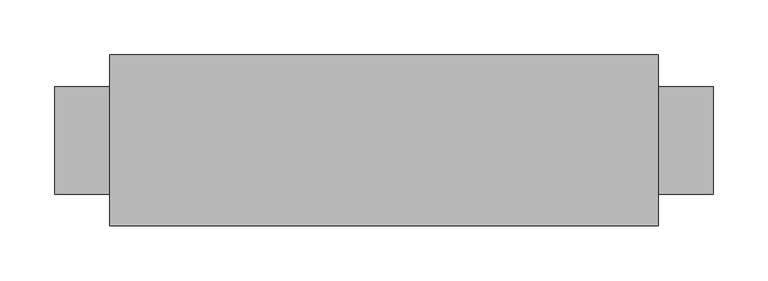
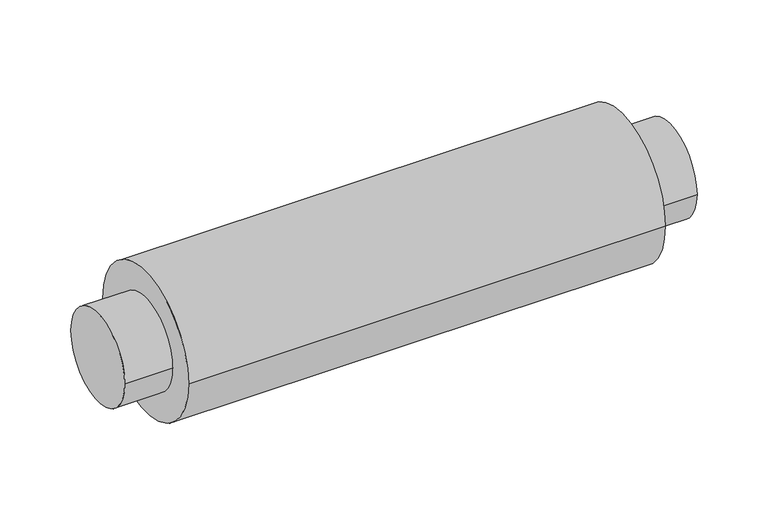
"""IFC4 building model written with IfcOpenShell, lengths in millimetres: damper geometry, VE-Tłumik_Akustyczny-ParaForma-Harmann-FLEXITEC : 100-0500."""

from ifc_helpers import new_model, si_unit, point, frame, origin, origin_2d, place, context, project, spatial, circle_curve, trimmed, segment, composite_curve, outline, extrude, source, transform, mapped, element, save


def damper_30ac830d(model_context):
    return source(origin(), model_context, "Body", "SweptSolid", [
        extrude(outline(composite_curve([segment(trimmed(circle_curve(origin_2d(), 49.0), [point((-49.0, 0.0))], [point((49.0, 0.0))], False, "CARTESIAN"), True, "CONTINUOUS"), segment(trimmed(circle_curve(origin_2d(), 49.0), [point((49.0, 0.0))], [point((-49.0, 0.0))], False, "CARTESIAN"), True, "CONTINUOUS")], self_intersect=False)), frame((250.0, 0.0, 0.0), z_axis=(1.0, 0.0, 0.0), x_axis=(0.0, 1.0, 0.0)), (0.0, 0.0, 1.0), 50.0),
        extrude(outline(composite_curve([segment(trimmed(circle_curve(origin_2d(), 49.0), [point((-49.0, 0.0))], [point((49.0, 0.0))], False, "CARTESIAN"), True, "CONTINUOUS"), segment(trimmed(circle_curve(origin_2d(), 49.0), [point((49.0, 0.0))], [point((-49.0, 0.0))], False, "CARTESIAN"), True, "CONTINUOUS")], self_intersect=False)), frame((-300.0, 0.0, 0.0), z_axis=(1.0, 0.0, 0.0), x_axis=(0.0, 1.0, 0.0)), (0.0, 0.0, 1.0), 50.0),
        extrude(outline(composite_curve([segment(trimmed(circle_curve(origin_2d(), 77.95), [point((-77.95, 0.0))], [point((77.95, 0.0))], False, "CARTESIAN"), True, "CONTINUOUS"), segment(trimmed(circle_curve(origin_2d(), 77.95), [point((77.95, 0.0))], [point((-77.95, 0.0))], False, "CARTESIAN"), True, "CONTINUOUS")], self_intersect=False)), frame((-250.0, 0.0, 0.0), z_axis=(1.0, 0.0, 0.0), x_axis=(0.0, 1.0, 0.0)), (0.0, 0.0, 1.0), 500.0),
    ])


if __name__ == "__main__":
    model = new_model("IFC4")
    model_context = context("Model", 3, world=origin())
    ifc_project = project(units=[si_unit("LENGTHUNIT", "METRE", prefix="MILLI")], contexts=[model_context])
    site = spatial("IfcSite", under=ifc_project)
    building = spatial("IfcBuilding", under=site)
    placement = place(None, origin())
    damper_shape = damper_30ac830d(model_context)
    element("IfcDamper", 1, ObjectType="VE-Tłumik_Akustyczny-ParaForma-Harmann-FLEXITEC : 100-0500", at=placement, inside=building, context=model_context, shape_type="MappedRepresentation", body=[
        mapped(damper_shape, transform((0.0, 0.0, 0.0), x_axis=(1.0, 0.0, 0.0), y_axis=(0.0, 1.0, 0.0), z_axis=(0.0, 0.0, 1.0))),
    ])
    save(model, "model.ifc")
